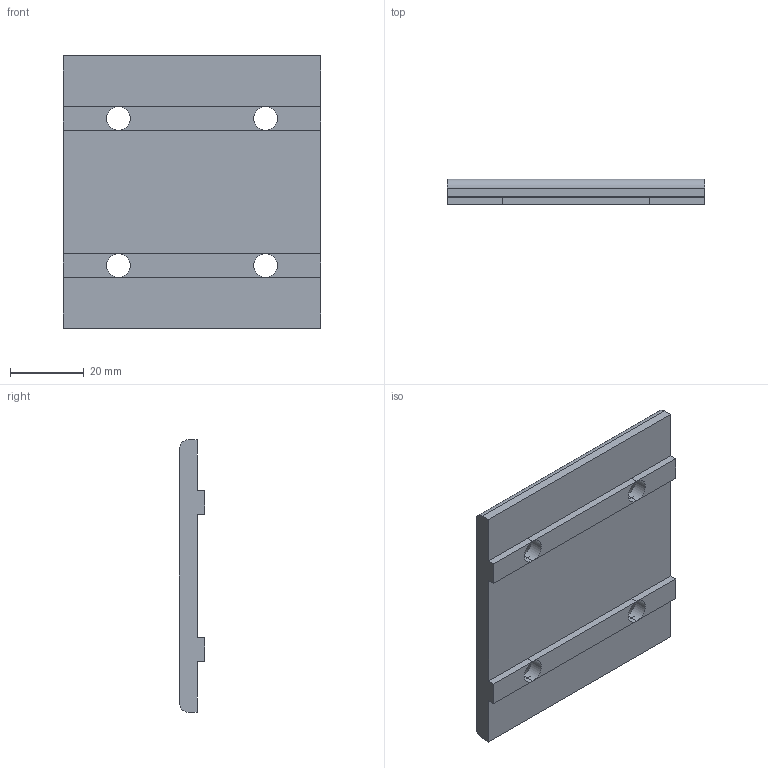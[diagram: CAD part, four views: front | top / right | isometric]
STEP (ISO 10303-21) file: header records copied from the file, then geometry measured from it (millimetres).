
FILE_DESCRIPTION (( 'STEP AP203' ), '1' );
FILE_NAME ('DJF8075-8.STEP', '2020-10-14T02:58:02', ( '' ), ( '' ), 'SwSTEP 2.0', 'SolidWorks 2017', '' );
FILE_SCHEMA (( 'CONFIG_CONTROL_DESIGN' ));
Length unit declared in the file: millimetre
Products named in the file (1): DJF8075-8
Bounding box: 70 x 6.8 x 74 mm (x, y, z)
Volume: 25112.7 mm3; surface area: 12397.9 mm2
Topology: 1 solids, 1 shells, 32 faces, 82 edges, 52 vertices
Faces by surface type: plane 14, cylinder 10, cone 8
Entity records: 1063 total; most frequent: DIRECTION 176, CARTESIAN_POINT 167, ORIENTED_EDGE 164, EDGE_CURVE 82, AXIS2_PLACEMENT_3D 61, LINE 54, VECTOR 54, VERTEX_POINT 52
